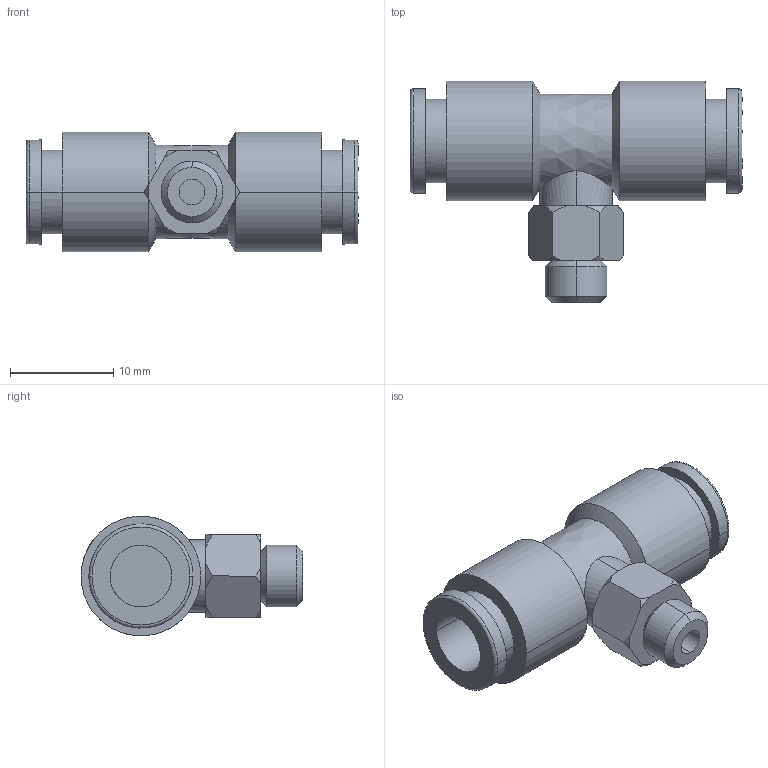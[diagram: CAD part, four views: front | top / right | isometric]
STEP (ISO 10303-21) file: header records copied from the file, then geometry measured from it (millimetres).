
FILE_DESCRIPTION (( 'STEP AP214' ), '1' );
FILE_NAME ('KQ2T06-M6.STEP', '2023-03-08T10:11:28', ( 'Windows User' ), ( 'P R C' ), 'SwSTEP 2.0', 'SolidWorks 2019', '' );
FILE_SCHEMA (( 'AUTOMOTIVE_DESIGN' ));
Length unit declared in the file: millimetre
Products named in the file (1): KQ2T06-M6
Bounding box: 32.2 x 21.5 x 11.58 mm (x, y, z)
Volume: 2459.2 mm3; surface area: 2327.5 mm2
Topology: 1 solids, 1 shells, 66 faces, 147 edges, 92 vertices
Faces by surface type: bspline 48, plane 18
Entity records: 2505 total; most frequent: CARTESIAN_POINT 1522, ORIENTED_EDGE 294, EDGE_CURVE 147, B_SPLINE_CURVE_WITH_KNOTS 105, VERTEX_POINT 92, EDGE_LOOP 75, ADVANCED_FACE 66, FACE_OUTER_BOUND 66
